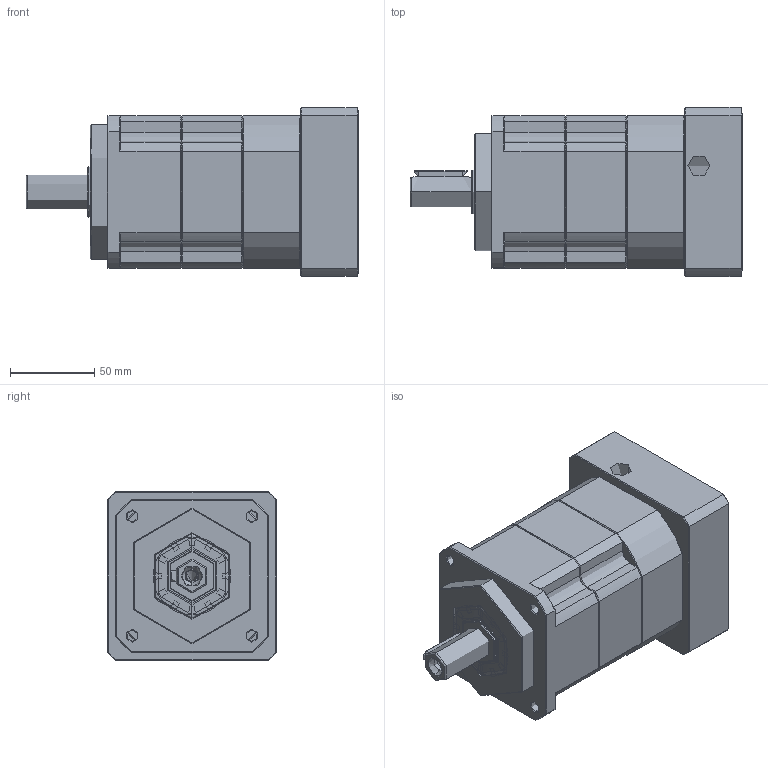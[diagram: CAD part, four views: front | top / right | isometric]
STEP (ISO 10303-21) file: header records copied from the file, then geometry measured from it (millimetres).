
FILE_DESCRIPTION (( 'STEP AP214' ), '1' );
FILE_NAME ('ZPB090-D20-L2-P1-24-95-115-M6.step', '2024-06-07T18:16:31', ( 'Windows 蚚誧' ), ( 'Organization' ), 'SwSTEP 2.0', 'SolidWorks 2016', '' );
FILE_SCHEMA (( 'AUTOMOTIVE_DESIGN' ));
Length unit declared in the file: millimetre
Products named in the file (1): ZPB090-D20-L2-P1-24-95-115-M6
Bounding box: 196.5 x 100 x 100 mm (x, y, z)
Topology: 0 solids, 37 shells, 1887 faces, 4983 edges, 3161 vertices
Faces by surface type: plane 969, bspline 389, cone 291, cylinder 236, torus 2
Full cylindrical faces by diameter (mm): 6.72 x1
Entity records: 96465 total; most frequent: CARTESIAN_POINT 48050, ORIENTED_EDGE 9917, DIRECTION 7699, EDGE_CURVE 4979, VECTOR 3273, LINE 3273, VERTEX_POINT 3159, AXIS2_PLACEMENT_3D 2213
